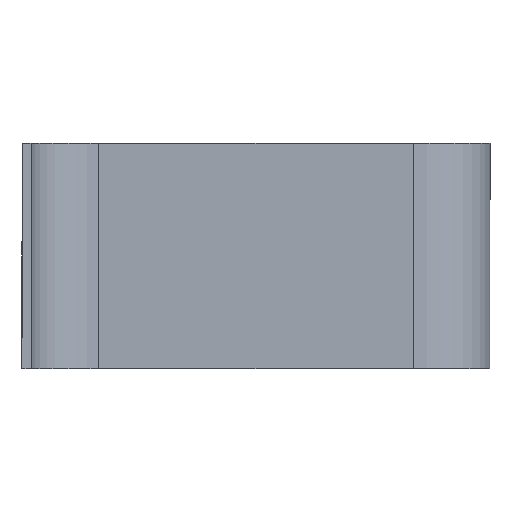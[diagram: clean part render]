
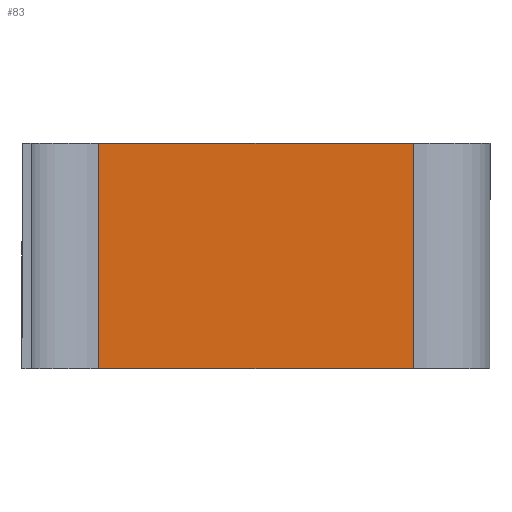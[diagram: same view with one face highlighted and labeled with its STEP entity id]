
A CAD part, front view. The second image highlights one B-rep face of the part: STEP entity #83.
In plain terms, the highlighted planar face has unit normal (0, -1, 0).
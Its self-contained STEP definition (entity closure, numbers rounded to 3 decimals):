
#77 = ORIENTED_EDGE ( 'NONE', *, *, #78, .T. ) ;
#78 = EDGE_CURVE ( 'NONE', #273, #267, #446, .T. ) ;
#83 = ADVANCED_FACE ( 'NONE', ( #431 ), #430, .F. ) ;
#84 = ORIENTED_EDGE ( 'NONE', *, *, #85, .T. ) ;
#85 = EDGE_CURVE ( 'NONE', #267, #268, #380, .T. ) ;
#261 = EDGE_LOOP ( 'NONE', ( #84, #269, #272, #77 ) ) ;
#267 = VERTEX_POINT ( 'NONE', #952 ) ;
#268 = VERTEX_POINT ( 'NONE', #948 ) ;
#269 = ORIENTED_EDGE ( 'NONE', *, *, #270, .T. ) ;
#270 = EDGE_CURVE ( 'NONE', #268, #271, #951, .T. ) ;
#271 = VERTEX_POINT ( 'NONE', #960 ) ;
#272 = ORIENTED_EDGE ( 'NONE', *, *, #274, .F. ) ;
#273 = VERTEX_POINT ( 'NONE', #849 ) ;
#274 = EDGE_CURVE ( 'NONE', #273, #271, #939, .T. ) ;
#377 = DIRECTION ( 'NONE',  ( 1., 0., 0. ) ) ;
#378 = VECTOR ( 'NONE', #377, 1000. ) ;
#379 = CARTESIAN_POINT ( 'NONE',  ( 0.4, 12.1, -5. ) ) ;
#380 = LINE ( 'NONE', #379, #378 ) ;
#426 = DIRECTION ( 'NONE',  ( 0., 0., 1. ) ) ;
#427 = DIRECTION ( 'NONE',  ( 0., 1., 0. ) ) ;
#428 = CARTESIAN_POINT ( 'NONE',  ( 0.4, 12.1, 5. ) ) ;
#429 = AXIS2_PLACEMENT_3D ( 'NONE', #428, #427, #426 ) ;
#430 = PLANE ( 'NONE',  #429 ) ;
#431 = FACE_OUTER_BOUND ( 'NONE', #261, .T. ) ;
#443 = DIRECTION ( 'NONE',  ( 0., 0., -1. ) ) ;
#444 = VECTOR ( 'NONE', #443, 1000. ) ;
#445 = CARTESIAN_POINT ( 'NONE',  ( 3.4, 12.1, -5. ) ) ;
#446 = LINE ( 'NONE', #445, #444 ) ;
#849 = CARTESIAN_POINT ( 'NONE',  ( 3.4, 12.1, 5. ) ) ;
#937 = VECTOR ( 'NONE', #1002, 1000. ) ;
#938 = CARTESIAN_POINT ( 'NONE',  ( 0.4, 12.1, 5. ) ) ;
#939 = LINE ( 'NONE', #938, #937 ) ;
#948 = CARTESIAN_POINT ( 'NONE',  ( 17.4, 12.1, -5. ) ) ;
#949 = VECTOR ( 'NONE', #961, 1000. ) ;
#950 = CARTESIAN_POINT ( 'NONE',  ( 17.4, 12.1, 5. ) ) ;
#951 = LINE ( 'NONE', #950, #949 ) ;
#952 = CARTESIAN_POINT ( 'NONE',  ( 3.4, 12.1, -5. ) ) ;
#960 = CARTESIAN_POINT ( 'NONE',  ( 17.4, 12.1, 5. ) ) ;
#961 = DIRECTION ( 'NONE',  ( 0., 0., 1. ) ) ;
#1002 = DIRECTION ( 'NONE',  ( 1., 0., 0. ) ) ;
